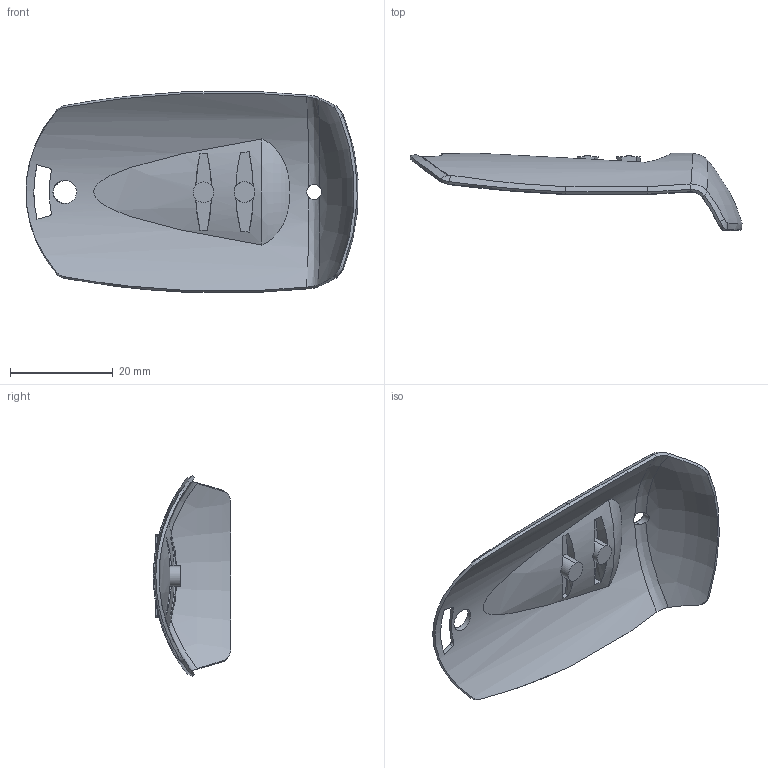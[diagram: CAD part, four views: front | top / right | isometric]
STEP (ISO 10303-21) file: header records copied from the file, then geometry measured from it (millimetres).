
FILE_DESCRIPTION (( 'STEP AP214' ), '1' );
FILE_NAME ('Junta PP114.STEP', '2018-06-06T09:19:12', ( 'aaa' ), ( '' ), 'SwSTEP 2.0', 'SolidWorks 2013', '' );
FILE_SCHEMA (( 'AUTOMOTIVE_DESIGN' ));
Length unit declared in the file: millimetre
Products named in the file (1): Junta PP114
Bounding box: 64.53 x 15 x 38.88 mm (x, y, z)
Volume: 2989.5 mm3; surface area: 5777.6 mm2
Topology: 1 solids, 1 shells, 113 faces, 310 edges, 201 vertices
Faces by surface type: bspline 39, cylinder 36, plane 31, torus 4, cone 3
Entity records: 5470 total; most frequent: CARTESIAN_POINT 2972, ORIENTED_EDGE 620, DIRECTION 341, EDGE_CURVE 310, VERTEX_POINT 201, B_SPLINE_CURVE_WITH_KNOTS 156, EDGE_LOOP 121, AXIS2_PLACEMENT_3D 118
